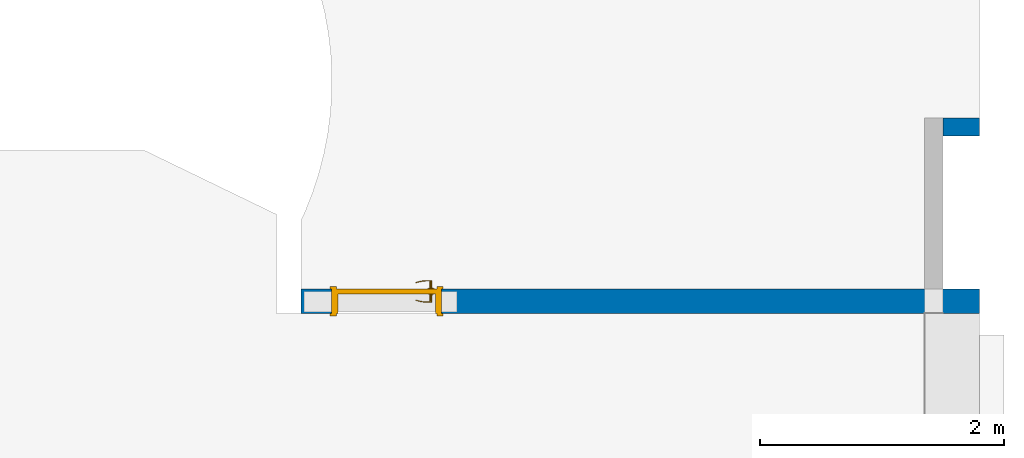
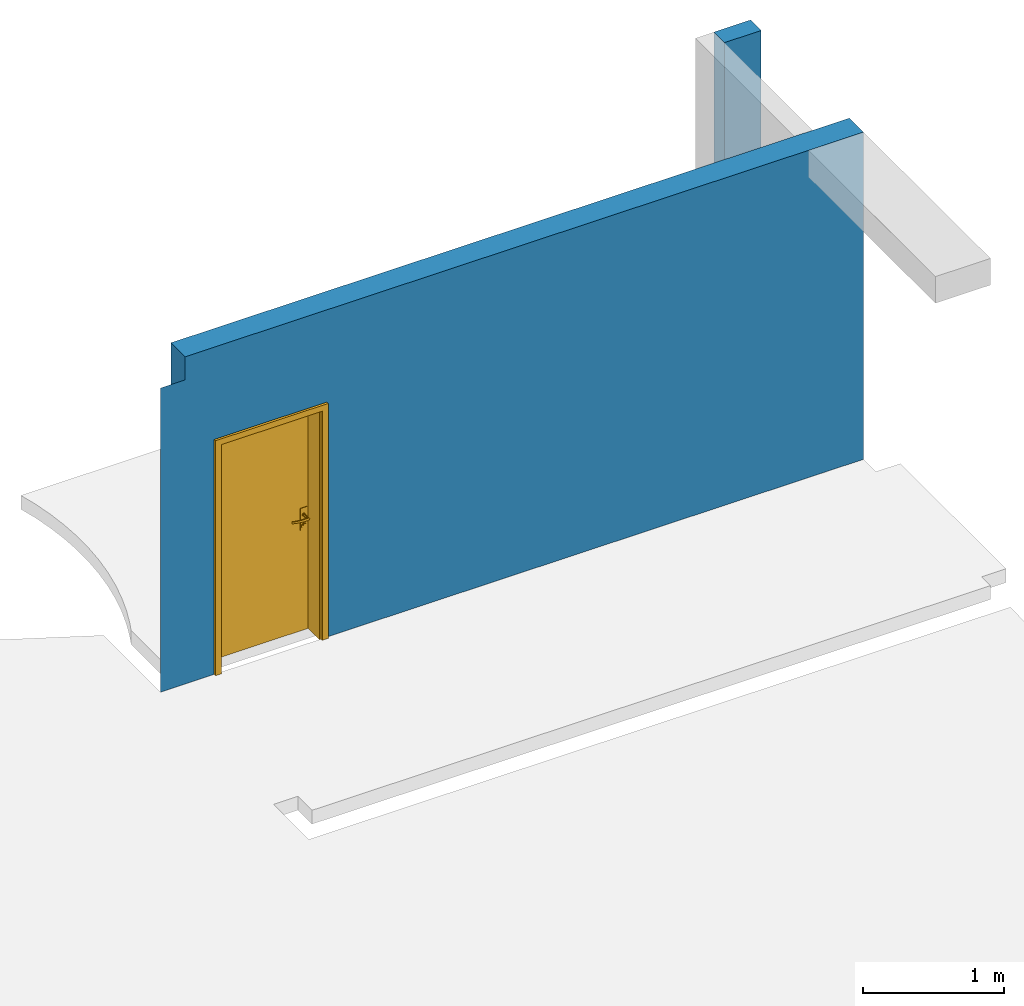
# One storey, part 8 of 9: 2 walls, 1 door, 1 opening.
"""IFC4 building model written with IfcOpenShell, lengths in millimetres."""

from ifc_helpers import new_model, entity, si_unit, converted_unit, derived_unit, direction, frame, origin_with_axes, place, context, subcontext, project, spatial, polygons, material, constituent, constituent_set, type_object, element, fill, save


model = new_model("IFC4")

# Units and contexts
model_context = context("Model", 3, precision=0.01, world=origin_with_axes(), true_north=direction((0.0, 1.0)))
body_context = subcontext(model_context, "Body", "Model", "MODEL_VIEW")
ifc_project = project(units=[si_unit("LENGTHUNIT", "METRE", prefix="MILLI"), si_unit("AREAUNIT", "SQUARE_METRE"), si_unit("VOLUMEUNIT", "CUBIC_METRE"), converted_unit("PLANEANGLEUNIT", "DEGREE", entity("IfcPlaneAngleMeasure", 0.0174532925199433), si_unit("PLANEANGLEUNIT", "RADIAN"), dimensions=[0, 0, 0, 0, 0, 0, 0]), converted_unit("TIMEUNIT", "Year", entity("IfcTimeMeasure", 31557600.0), si_unit("TIMEUNIT", "SECOND"), dimensions=[0, 0, 1, 0, 0, 0, 0]), si_unit("MASSUNIT", "GRAM", prefix="KILO"), si_unit("THERMODYNAMICTEMPERATUREUNIT", "DEGREE_CELSIUS"), si_unit("LUMINOUSINTENSITYUNIT", "LUMEN"), si_unit("ENERGYUNIT", "JOULE", prefix="MEGA"), derived_unit("THERMALCONDUCTANCEUNIT", [(si_unit("POWERUNIT", "WATT"), 1), (si_unit("LENGTHUNIT", "METRE"), -1), (si_unit("THERMODYNAMICTEMPERATUREUNIT", "KELVIN"), -1)]), derived_unit("SPECIFICHEATCAPACITYUNIT", [(si_unit("ENERGYUNIT", "JOULE"), 1), (si_unit("MASSUNIT", "GRAM", prefix="KILO"), -1), (si_unit("THERMODYNAMICTEMPERATUREUNIT", "KELVIN"), -1)]), derived_unit("MASSDENSITYUNIT", [(si_unit("MASSUNIT", "GRAM", prefix="KILO"), 1), (si_unit("VOLUMEUNIT", "CUBIC_METRE"), -1)])], contexts=[model_context])

# Site, building, storey
site_placement = place(None, origin_with_axes())
site = spatial("IfcSite", under=ifc_project, at=site_placement, Name="Exteriér", CompositionType="ELEMENT")
building_placement = place(site_placement, origin_with_axes())
building = spatial("IfcBuilding", under=site, at=building_placement, Name="Univerzitní lezecké centrum", CompositionType="ELEMENT")
storey_placement = place(building_placement, origin_with_axes())
storey = spatial("IfcBuildingStorey", under=building, at=storey_placement, Name="1.NP", CompositionType="ELEMENT", Elevation=0.0)

# Wall
ifc_material_1 = material(Name="Keramické tvárnice nenosné tl. 150 mm")
ifc_constituent_1 = constituent(ifc_material_1, Name="Keramické tvárnice nenosné tl. 150 mm")
ifc_constituent_set_1 = constituent_set(constituents=[ifc_constituent_1], Name="!Vnitřní keramická stěna 150 mm - nenosná s omítkou")
wall_type_1 = type_object("IfcWallType", Name="!Vnitřní keramická stěna 150 mm - nenosná s omítkou 150", PredefinedType="NOTDEFINED")
wall_1_placement = place(storey_placement, frame((10149.97505193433, 3400.480752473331, -120.000000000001), z_axis=(0.0, 0.0, 1.0), x_axis=(1.0, 0.0, 0.0)))
element("IfcWall", 1, at=wall_1_placement, inside=storey, type_object=wall_type_1, material=ifc_constituent_set_1, Name="St07", PredefinedType="NOTDEFINED", context=body_context, shape_type="Tessellation", body=[
    polygons([(299.8765969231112, -149.9999999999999, 0.0), (0.01014669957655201, -149.9999999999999, 0.0), (0.0, 0.0, 0.0), (299.8765969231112, 0.0, 0.0), (299.8765969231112, -149.9999999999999, 2950.000000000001), (0.01014669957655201, -149.9999999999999, 2950.000000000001), (0.0, 0.0, 2950.000000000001), (299.8765969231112, 0.0, 2950.000000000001)], [[[1, 2, 3, 4]], [[5, 6, 2, 1]], [[3, 2, 6, 7]], [[4, 3, 7, 8]], [[4, 8, 5, 1]], [[8, 7, 6, 5]]], closed=True),
])

# Wall, opening, door
ifc_material_2 = material(Name="Keramické tvárnice nenosné tl 200 mm")
ifc_constituent_2 = constituent(ifc_material_2, Name="Keramické tvárnice nenosné tl 200 mm")
ifc_constituent_set_2 = constituent_set(constituents=[ifc_constituent_2], Name="!Vnitřní keramická stěna 200 mm - nenosná")
wall_type_2 = type_object("IfcWallType", Name="!Vnitřní keramická stěna 200 mm - nenosná 200", PredefinedType="NOTDEFINED")
wall_2_placement = place(storey_placement, frame((10449.85164885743, 2000.480756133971, 0.0), z_axis=(0.0, 0.0, 1.0), x_axis=(-1.0, 0.0, 0.0)))
wall_2 = element("IfcWall", 2, at=wall_2_placement, inside=storey, type_object=wall_type_2, material=ifc_constituent_set_2, Name="St06", PredefinedType="NOTDEFINED", context=body_context, shape_type="Tessellation", body=[
    polygons([(5299.900487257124, -4.449773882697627e-10, 2020.0), (5299.900487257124, -6.772360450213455e-10, 0.0), (5549.833476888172, -7.140954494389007e-10, 0.0), (5549.833476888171, -7.140954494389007e-10, 2830.0), (0.0, 0.0, 2830.0), (0.0, 1.048050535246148e-10, 0.0), (4399.900487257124, -5.444533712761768e-10, 0.0), (4399.900487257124, -3.201883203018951e-10, 2020.0), (5299.900487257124, 199.9999999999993, 2020.0), (5299.900487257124, 199.9999999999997, 0.0), (5749.811491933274, 199.9999999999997, 0.0), (5549.8115090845, 199.9780297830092, 0.0), (5549.8115090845, 199.9780297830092, 2830.0), (5549.900487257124, 199.9780395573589, 2830.000000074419), (5549.900487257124, 199.9999999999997, 2830.000000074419), (0.0, 199.9999999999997, 2830.0), (0.0, 200.0000000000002, 0.0), (4399.900487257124, 199.9999999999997, 0.0), (4399.900487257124, 199.9999999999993, 2020.0), (5549.900487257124, 199.9999999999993, 2630.0), (5749.811491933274, 199.9999999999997, 2630.0), (5549.900487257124, 199.9780395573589, 2630.0)], [[[1, 2, 3, 4, 5, 6, 7, 8]], [[2, 1, 9, 10]], [[2, 10, 11, 12, 3]], [[13, 4, 3, 12]], [[5, 4, 13, 14, 15, 16]], [[5, 16, 17, 6]], [[18, 7, 6, 17]], [[8, 7, 18, 19]], [[1, 8, 19, 9]], [[19, 18, 17, 16, 15, 20, 21, 11, 10, 9]], [[13, 12, 11, 21, 22, 14]], [[14, 22, 20, 15]], [[22, 21, 20]]], closed=True),
])
opening_placement = place(wall_2_placement, frame((4849.900487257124, 0.0, 0.0), z_axis=(0.0, 0.0, 1.0), x_axis=(1.0, 0.0, 0.0)))
opening = element("IfcOpeningElement", 3, at=opening_placement, cuts=wall_2, Name="D11", context=body_context, identifier="Reference", shape_type="Tessellation", body=[
    polygons([(450.0000000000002, -1.000000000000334, 2020.0), (-450.0000000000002, -1.000000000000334, 2020.0), (-450.0000000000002, -1.000000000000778, 0.0), (450.0000000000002, -1.000000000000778, 0.0), (461.9999999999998, -1.000000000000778, 0.0), (461.9999999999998, -1.000000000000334, 2032.0), (-461.9999999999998, -1.000000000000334, 2032.0), (-461.9999999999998, -1.000000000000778, 0.0), (450.0000000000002, 0.0, 0.0), (-450.0000000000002, 0.0, 0.0), (-450.0000000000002, 199.9999999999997, 0.0), (-450.0000000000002, 201.0000000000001, 0.0), (450.0000000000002, 200.9999999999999, 0.0), (450.0000000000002, 199.9999999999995, 0.0), (461.9999999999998, 0.0, 0.0), (461.9999999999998, 0.0, 2032.0), (-461.9999999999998, 0.0, 2032.0), (-461.9999999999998, 0.0, 0.0), (-450.0000000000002, 0.0, 2020.0), (-450.0000000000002, 200.0000000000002, 2020.0), (-461.9999999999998, 199.9999999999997, 0.0), (-461.9999999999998, 201.0000000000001, 0.0), (-461.9999999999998, 201.0000000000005, 2032.0), (461.9999999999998, 201.0000000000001, 2032.0), (461.9999999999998, 200.9999999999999, 0.0), (461.9999999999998, 199.9999999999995, 0.0), (450.0000000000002, 0.0, 2020.0), (450.0000000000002, 199.9999999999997, 2020.0), (461.9999999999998, 199.9999999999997, 2032.0), (-461.9999999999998, 200.0000000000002, 2032.0)], [[[1, 2, 3, 4]], [[3, 2, 1, 4, 5, 6, 7, 8]], [[9, 4, 3, 10, 11, 12, 13, 14]], [[4, 9, 15, 5]], [[15, 16, 6, 5]], [[16, 17, 7, 6]], [[17, 18, 8, 7]], [[10, 3, 8, 18]], [[10, 19, 20, 11]], [[12, 11, 21, 22]], [[13, 12, 22, 23, 24, 25]], [[14, 13, 25, 26]], [[27, 9, 14, 28]], [[27, 19, 10, 18, 17, 16, 15, 9]], [[19, 27, 28, 20]], [[11, 20, 28, 14, 26, 29, 30, 21]], [[21, 30, 23, 22]], [[30, 29, 24, 23]], [[29, 26, 25, 24]]], closed=True),
])
door_type = type_object("IfcDoorType", Name="Dveře 24", OperationType="SINGLE_SWING_LEFT", PredefinedType="NOTDEFINED")
door_placement = place(opening_placement, frame((400.0000000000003, 0.0, 0.0), z_axis=(0.0, 0.0, 1.0), x_axis=(-1.0, 0.0, 0.0)))
door = element("IfcDoor", 4, at=door_placement, inside=storey, type_object=door_type, Name="D11", OverallHeight=2020.0, OverallWidth=900.0, PredefinedType="NOTDEFINED", context=body_context, shape_type="Tessellation", body=[
    polygons([(862.0000000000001, -218.9999999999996, 0.0), (812.0000000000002, -218.9999999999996, 0.0), (812.0000000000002, -199.9999999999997, 0.0), (862.0000000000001, -199.9999999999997, 0.0), (862.0000000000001, -219.0000000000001, 2032.0), (812.0000000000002, -219.0000000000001, 1982.0), (812.0000000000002, -199.9999999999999, 1982.0), (862.0000000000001, -199.9999999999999, 2032.0)], [[[1, 2, 3, 4]], [[1, 5, 6, 2]], [[2, 6, 7, 3]], [[4, 3, 7, 8]], [[5, 1, 4, 8]], [[6, 5, 8, 7]]], closed=True),
    polygons([(-61.99999999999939, -218.9999999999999, 2032.0), (-11.99999999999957, -218.9999999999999, 1982.0), (-11.99999999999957, -199.9999999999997, 1982.0), (-61.99999999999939, -199.9999999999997, 2032.0), (-61.99999999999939, -218.9999999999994, 0.0), (-11.99999999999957, -218.9999999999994, 0.0), (-11.99999999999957, -199.9999999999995, 0.0), (-61.99999999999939, -199.9999999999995, 0.0)], [[[1, 2, 3, 4]], [[1, 5, 6, 2]], [[2, 6, 7, 3]], [[4, 3, 7, 8]], [[5, 1, 4, 8]], [[6, 5, 8, 7]]], closed=True),
    polygons([(862.0000000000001, -219.0000000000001, 2032.0), (812.0000000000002, -219.0000000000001, 1982.0), (812.0000000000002, -199.9999999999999, 1982.0), (862.0000000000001, -199.9999999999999, 2032.0), (-61.99999999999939, -218.9999999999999, 2032.0), (-11.99999999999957, -218.9999999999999, 1982.0), (-11.99999999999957, -199.9999999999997, 1982.0), (-61.99999999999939, -199.9999999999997, 2032.0)], [[[1, 2, 3, 4]], [[1, 5, 6, 2]], [[2, 6, 7, 3]], [[4, 3, 7, 8]], [[5, 1, 4, 8]], [[6, 5, 8, 7]]], closed=True),
    polygons([(862.0000000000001, 19.00000000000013, 0.0), (862.0000000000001, 0.0, 0.0), (812.0000000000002, 0.0, 0.0), (812.0000000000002, 19.00000000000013, 0.0), (862.0000000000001, 19.00000000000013, 2032.0), (862.0000000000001, 0.0, 2032.0), (812.0000000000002, 0.0, 1982.0), (812.0000000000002, 19.00000000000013, 1982.0)], [[[1, 2, 3, 4]], [[5, 6, 2, 1]], [[2, 6, 7, 3]], [[4, 3, 7, 8]], [[1, 4, 8, 5]], [[8, 7, 6, 5]]], closed=True),
    polygons([(-61.99999999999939, 19.00000000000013, 2032.0), (-61.99999999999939, 0.0, 2032.0), (-11.99999999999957, 0.0, 1982.0), (-11.99999999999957, 19.00000000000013, 1982.0), (-61.99999999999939, 19.00000000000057, 0.0), (-61.99999999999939, 0.0, 0.0), (-11.99999999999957, 0.0, 0.0), (-11.99999999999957, 19.00000000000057, 0.0)], [[[1, 2, 3, 4]], [[5, 6, 2, 1]], [[2, 6, 7, 3]], [[4, 3, 7, 8]], [[1, 4, 8, 5]], [[8, 7, 6, 5]]], closed=True),
    polygons([(862.0000000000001, 19.00000000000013, 2032.0), (862.0000000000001, 0.0, 2032.0), (812.0000000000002, 0.0, 1982.0), (812.0000000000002, 19.00000000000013, 1982.0), (-61.99999999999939, 19.00000000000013, 2032.0), (-61.99999999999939, 0.0, 2032.0), (-11.99999999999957, 0.0, 1982.0), (-11.99999999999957, 19.00000000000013, 1982.0)], [[[1, 2, 3, 4]], [[5, 6, 2, 1]], [[2, 6, 7, 3]], [[4, 3, 7, 8]], [[1, 4, 8, 5]], [[8, 7, 6, 5]]], closed=True),
    polygons([(800.0000000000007, -39.99999999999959, 0.0), (800.0000000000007, -199.9999999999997, 0.0), (800.0000000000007, -199.9999999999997, 1970.0), (800.0000000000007, -39.99999999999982, 1970.0), (812.0000000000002, -39.99999999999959, 0.0), (812.0000000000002, 0.0, 0.0), (850.0000000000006, 0.0, 0.0), (850.0000000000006, -199.9999999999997, 0.0), (850.0000000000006, -199.9999999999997, 1970.0), (812.0000000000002, -39.99999999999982, 1970.0), (850.0000000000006, 0.0, 1970.0), (812.0000000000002, 0.0, 1970.0)], [[[1, 2, 3, 4]], [[5, 6, 7, 8, 2, 1]], [[2, 8, 9, 3]], [[10, 4, 3, 9, 11, 12]], [[10, 5, 1, 4]], [[12, 6, 5, 10]], [[12, 11, 7, 6]], [[7, 11, 9, 8]]], closed=True),
    polygons([(-11.99999999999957, -39.99999999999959, 1970.0), (-11.99999999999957, 0.0, 1970.0), (-49.99999999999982, 0.0, 1970.0), (-49.99999999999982, -199.9999999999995, 1970.0), (0.0, -199.9999999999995, 1970.0), (0.0, -39.99999999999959, 1970.0), (-11.99999999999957, -39.99999999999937, 0.0), (-11.99999999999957, 0.0, 0.0), (-49.99999999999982, 0.0, 0.0), (-49.99999999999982, -199.9999999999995, 0.0), (0.0, -199.9999999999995, 0.0), (0.0, -39.99999999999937, 0.0)], [[[1, 2, 3, 4, 5, 6]], [[1, 7, 8, 2]], [[8, 9, 3, 2]], [[3, 9, 10, 4]], [[4, 10, 11, 5]], [[6, 5, 11, 12]], [[6, 12, 7, 1]], [[7, 12, 11, 10, 9, 8]]], closed=True),
    polygons([(812.0000000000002, 0.0, 1982.0), (-11.99999999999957, 0.0, 1982.0), (-11.99999999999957, 0.0, 1970.0), (-49.99999999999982, 0.0, 1970.0), (-49.99999999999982, 0.0, 2020.0), (850.0000000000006, 0.0, 2020.0), (850.0000000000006, 0.0, 1970.0), (812.0000000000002, 0.0, 1970.0), (812.0000000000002, -39.99999999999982, 1982.0), (-11.99999999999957, -39.99999999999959, 1982.0), (-11.99999999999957, -39.99999999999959, 1970.0), (0.0, -39.99999999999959, 1970.0), (0.0, -199.9999999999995, 1970.0), (-49.99999999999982, -199.9999999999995, 1970.0), (-49.99999999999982, -199.9999999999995, 2020.0), (850.0000000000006, -199.9999999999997, 2020.0), (850.0000000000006, -199.9999999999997, 1970.0), (812.0000000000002, -39.99999999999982, 1970.0), (800.0000000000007, -199.9999999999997, 1970.0), (800.0000000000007, -39.99999999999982, 1970.0)], [[[1, 2, 3, 4, 5, 6, 7, 8]], [[1, 9, 10, 2]], [[2, 10, 11, 3]], [[11, 12, 13, 14, 4, 3]], [[5, 4, 14, 15]], [[6, 5, 15, 16]], [[7, 6, 16, 17]], [[18, 8, 7, 17, 19, 20]], [[8, 18, 9, 1]], [[11, 10, 9, 18, 20, 12]], [[20, 19, 13, 12]], [[13, 19, 17, 16, 15, 14]]], closed=True),
    polygons([(790.5000000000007, -39.99999999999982, 1060.0), (733.5000000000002, -39.99999999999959, 1060.0), (733.5000000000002, -42.9999999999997, 1060.0), (790.5000000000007, -42.9999999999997, 1060.0), (790.5000000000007, -39.99999999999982, 870.0), (733.5000000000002, -39.99999999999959, 870.0), (733.5000000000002, -42.9999999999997, 870.0), (790.5000000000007, -42.9999999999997, 870.0)], [[[1, 2, 3, 4]], [[1, 5, 6, 2]], [[2, 6, 7, 3]], [[4, 3, 7, 8]], [[5, 1, 4, 8]], [[6, 5, 8, 7]]], closed=True),
    polygons([(762.0000000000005, -103.9999999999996, 990.0), (767.0000000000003, -103.9999999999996, 991.3397459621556), (767.0000000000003, -110.9999999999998, 991.3397459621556), (762.0000000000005, -110.9999999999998, 990.0), (737.0000000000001, -103.9999999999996, 990.0), (737.0000000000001, -103.9999999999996, 1010.0), (762.0000000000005, -103.9999999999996, 1010.0), (767.0000000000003, -103.9999999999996, 1008.660254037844), (770.6602540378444, -103.9999999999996, 1005.0), (772.0000000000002, -103.9999999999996, 1000.0), (770.6602540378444, -103.9999999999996, 995.0), (770.6602540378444, -110.9999999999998, 995.0), (772.0000000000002, -110.9999999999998, 1000.0), (770.6602540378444, -110.9999999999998, 1005.0), (767.0000000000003, -110.9999999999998, 1008.660254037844), (762.0000000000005, -110.9999999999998, 1010.0), (737.0000000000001, -110.9999999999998, 1010.0), (737.0000000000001, -110.9999999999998, 990.0)], [[[1, 2, 3, 4]], [[1, 5, 6, 7, 8, 9, 10, 11, 2]], [[2, 11, 12, 3]], [[4, 3, 12, 13, 14, 15, 16, 17, 18]], [[5, 1, 4, 18]], [[6, 5, 18, 17]], [[7, 6, 17, 16]], [[8, 7, 16, 15]], [[9, 8, 15, 14]], [[10, 9, 14, 13]], [[11, 10, 13, 12]]], closed=True),
    polygons([(737.0000000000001, -103.9999999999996, 1010.0), (723.9017171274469, -103.9999999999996, 1009.607300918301), (723.5960905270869, -110.9999999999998, 1009.607300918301), (737.0000000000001, -103.9999999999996, 990.0), (723.9017171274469, -103.9999999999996, 990.3926990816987), (696.8902834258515, -108.6635446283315, 1008.821902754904), (737.0000000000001, -110.9999999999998, 1010.0), (737.0000000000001, -110.9999999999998, 990.0), (697.8048372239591, -101.716818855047, 991.1780972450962), (697.8048372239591, -101.716818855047, 1008.821902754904), (696.8902834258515, -108.6635446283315, 991.1780972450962), (723.5960905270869, -110.9999999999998, 990.3926990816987), (672.0062561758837, -97.16783295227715, 991.9634954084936), (672.0062561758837, -97.16783295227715, 1008.036504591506), (670.4897354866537, -104.0084157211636, 1008.036504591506), (670.4897354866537, -104.0084157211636, 991.9634954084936), (646.7023167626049, -90.38766282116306, 992.7488935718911), (646.7023167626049, -90.38766282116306, 1007.251106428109), (644.5953708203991, -97.07004162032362, 1007.251106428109), (644.5953708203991, -97.07004162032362, 992.7488935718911), (638.829442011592, -87.52217075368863, 993.0), (638.829442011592, -87.52217075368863, 1007.0), (636.5387956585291, -94.13768807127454, 1007.0), (636.5387956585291, -94.13768807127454, 993.0)], [[[1, 2, 3]], [[1, 4, 5, 2]], [[2, 6, 3]], [[1, 3, 7]], [[5, 4, 8]], [[2, 5, 9, 10]], [[2, 10, 6]], [[3, 6, 11, 12]], [[7, 3, 12, 8]], [[5, 8, 12]], [[9, 5, 12]], [[10, 9, 13, 14]], [[10, 15, 6]], [[6, 15, 16, 11]], [[9, 12, 11]], [[13, 9, 11]], [[14, 13, 17, 18]], [[10, 14, 15]], [[15, 19, 20, 16]], [[13, 11, 16]], [[17, 13, 16]], [[18, 17, 21, 22]], [[14, 18, 19]], [[14, 19, 15]], [[19, 23, 24, 20]], [[17, 16, 20]], [[21, 17, 20]], [[22, 21, 24, 23]], [[18, 22, 23]], [[18, 23, 19]], [[21, 20, 24]]], closed=False),
    polygons([(751.6076951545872, -52.99999999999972, 994.0), (750.0, -52.99999999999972, 1000.0), (749.0000000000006, -42.9999999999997, 1000.0), (750.7416697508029, -42.9999999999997, 993.5), (756.0000000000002, -52.99999999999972, 989.6076951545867), (762.0000000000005, -52.99999999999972, 988.0), (768.0000000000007, -52.99999999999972, 989.6076951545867), (772.3923048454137, -52.99999999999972, 994.0), (774.0, -52.99999999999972, 1000.0), (772.3923048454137, -52.99999999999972, 1006.0), (768.0000000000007, -52.99999999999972, 1010.392304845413), (762.0000000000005, -52.99999999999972, 1012.0), (756.0000000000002, -52.99999999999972, 1010.392304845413), (751.6076951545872, -52.99999999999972, 1006.0), (750.7416697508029, -42.9999999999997, 1006.5), (755.5000000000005, -42.9999999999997, 1011.258330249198), (762.0000000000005, -42.9999999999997, 1013.0), (768.5000000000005, -42.9999999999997, 1011.258330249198), (773.258330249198, -42.9999999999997, 1006.5), (775.0000000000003, -42.9999999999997, 1000.0), (773.258330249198, -42.9999999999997, 993.4999999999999), (768.5000000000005, -42.9999999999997, 988.7416697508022), (762.0000000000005, -42.9999999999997, 987.0), (755.5000000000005, -42.9999999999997, 988.7416697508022)], [[[1, 2, 3, 4]], [[2, 1, 5, 6, 7, 8, 9, 10, 11, 12, 13, 14]], [[2, 14, 15, 3]], [[3, 15, 16, 17, 18, 19, 20, 21, 22, 23, 24, 4]], [[5, 1, 4, 24]], [[6, 5, 24, 23]], [[7, 6, 23, 22]], [[8, 7, 22, 21]], [[9, 8, 21, 20]], [[10, 9, 20, 19]], [[11, 10, 19, 18]], [[12, 11, 18, 17]], [[13, 12, 17, 16]], [[14, 13, 16, 15]]], closed=True),
    polygons([(744.6794919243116, -46.99999999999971, 895.0), (742.0, -46.99999999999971, 905.0), (740.0000000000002, -42.9999999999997, 905.0), (742.9474411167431, -42.9999999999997, 894.0), (752.0000000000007, -46.99999999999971, 887.6794919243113), (762.0000000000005, -46.99999999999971, 885.0), (772.0000000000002, -46.99999999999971, 887.6794919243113), (779.3205080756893, -46.99999999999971, 895.0), (782.0, -46.99999999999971, 905.0), (779.3205080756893, -46.99999999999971, 915.0), (772.0000000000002, -46.99999999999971, 922.3205080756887), (762.0000000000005, -46.99999999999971, 925.0), (752.0000000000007, -46.99999999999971, 922.3205080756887), (744.6794919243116, -46.99999999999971, 915.0), (742.9474411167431, -42.9999999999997, 916.0), (751.0000000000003, -42.9999999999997, 924.0525588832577), (762.0000000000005, -42.9999999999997, 927.0), (773.0000000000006, -42.9999999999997, 924.0525588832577), (781.0525588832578, -42.9999999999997, 916.0), (784.0000000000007, -42.9999999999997, 905.0), (781.0525588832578, -42.9999999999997, 894.0), (773.0000000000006, -42.9999999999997, 885.9474411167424), (762.0000000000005, -42.9999999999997, 883.0), (751.0000000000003, -42.9999999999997, 885.9474411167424)], [[[1, 2, 3, 4]], [[2, 1, 5, 6, 7, 8, 9, 10, 11, 12, 13, 14]], [[2, 14, 15, 3]], [[3, 15, 16, 17, 18, 19, 20, 21, 22, 23, 24, 4]], [[5, 1, 4, 24]], [[6, 5, 24, 23]], [[7, 6, 23, 22]], [[8, 7, 22, 21]], [[9, 8, 21, 20]], [[10, 9, 20, 19]], [[11, 10, 19, 18]], [[12, 11, 18, 17]], [[13, 12, 17, 16]], [[14, 13, 16, 15]]], closed=True),
    polygons([(757.0502525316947, -48.99999999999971, 909.0502525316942), (755.0000000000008, -48.99999999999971, 914.0), (754.0000000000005, -46.99999999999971, 914.0), (756.3431457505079, -46.99999999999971, 908.3431457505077), (762.0000000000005, -48.99999999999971, 907.0), (766.9497474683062, -48.99999999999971, 909.0502525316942), (769.0000000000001, -48.99999999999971, 914.0), (766.9497474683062, -48.99999999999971, 918.9497474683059), (762.0000000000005, -48.99999999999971, 921.0), (757.0502525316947, -48.99999999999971, 918.9497474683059), (756.3431457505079, -46.99999999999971, 919.6568542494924), (762.0000000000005, -46.99999999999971, 922.0), (767.656854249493, -46.99999999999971, 919.6568542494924), (770.0000000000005, -46.99999999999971, 914.0), (767.656854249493, -46.99999999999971, 908.3431457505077), (762.0000000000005, -46.99999999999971, 906.0)], [[[1, 2, 3, 4]], [[2, 1, 5, 6, 7, 8, 9, 10]], [[2, 10, 11, 3]], [[3, 11, 12, 13, 14, 15, 16, 4]], [[5, 1, 4, 16]], [[6, 5, 16, 15]], [[7, 6, 15, 14]], [[8, 7, 14, 13]], [[9, 8, 13, 12]], [[10, 9, 12, 11]]], closed=True),
    polygons([(762.0000000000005, -52.99999999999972, 1010.0), (757.0000000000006, -52.99999999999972, 1008.660254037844), (757.0000000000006, -103.9999999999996, 1008.660254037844), (762.0000000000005, -103.9999999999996, 1010.0), (767.0000000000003, -52.99999999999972, 1008.660254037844), (770.6602540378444, -52.99999999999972, 1005.0), (772.0000000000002, -52.99999999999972, 1000.0), (770.6602540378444, -52.99999999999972, 995.0), (767.0000000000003, -52.99999999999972, 991.3397459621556), (762.0000000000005, -52.99999999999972, 990.0), (757.0000000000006, -52.99999999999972, 991.3397459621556), (753.3397459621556, -52.99999999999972, 995.0), (752.0000000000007, -52.99999999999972, 1000.0), (753.3397459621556, -52.99999999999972, 1005.0), (753.3397459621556, -103.9999999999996, 1005.0), (752.0000000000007, -103.9999999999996, 1000.0), (753.3397459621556, -103.9999999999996, 995.0), (757.0000000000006, -103.9999999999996, 991.3397459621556), (762.0000000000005, -103.9999999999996, 990.0), (767.0000000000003, -103.9999999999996, 991.3397459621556), (770.6602540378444, -103.9999999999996, 995.0), (772.0000000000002, -103.9999999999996, 1000.0), (770.6602540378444, -103.9999999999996, 1005.0), (767.0000000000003, -103.9999999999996, 1008.660254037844)], [[[1, 2, 3, 4]], [[1, 5, 6, 7, 8, 9, 10, 11, 12, 13, 14, 2]], [[2, 14, 15, 3]], [[4, 3, 15, 16, 17, 18, 19, 20, 21, 22, 23, 24]], [[5, 1, 4, 24]], [[6, 5, 24, 23]], [[7, 6, 23, 22]], [[8, 7, 22, 21]], [[9, 8, 21, 20]], [[10, 9, 20, 19]], [[11, 10, 19, 18]], [[12, 11, 18, 17]], [[13, 12, 17, 16]], [[14, 13, 16, 15]]], closed=True),
    polygons([(790.5000000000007, 0.0, 1060.0), (790.5000000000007, 3.000000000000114, 1060.0), (733.5000000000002, 3.000000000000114, 1060.0), (733.5000000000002, 0.0, 1060.0), (790.5000000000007, 0.0, 870.0), (790.5000000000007, 3.000000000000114, 870.0), (733.5000000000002, 3.000000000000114, 870.0), (733.5000000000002, 0.0, 870.0)], [[[1, 2, 3, 4]], [[5, 6, 2, 1]], [[2, 6, 7, 3]], [[4, 3, 7, 8]], [[1, 4, 8, 5]], [[8, 7, 6, 5]]], closed=True),
    polygons([(762.0000000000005, 64.0000000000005, 990.0), (762.0000000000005, 71.00000000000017, 990.0), (767.0000000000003, 71.00000000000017, 991.3397459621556), (767.0000000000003, 64.0000000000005, 991.3397459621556), (737.0000000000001, 64.0000000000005, 990.0), (737.0000000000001, 71.00000000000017, 990.0), (737.0000000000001, 71.00000000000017, 1010.0), (762.0000000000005, 71.00000000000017, 1010.0), (767.0000000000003, 71.00000000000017, 1008.660254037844), (770.6602540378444, 71.00000000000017, 1005.0), (772.0000000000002, 71.00000000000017, 1000.0), (770.6602540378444, 71.00000000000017, 995.0), (770.6602540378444, 64.0000000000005, 995.0), (772.0000000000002, 64.0000000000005, 1000.0), (770.6602540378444, 64.0000000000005, 1005.0), (767.0000000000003, 64.0000000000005, 1008.660254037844), (762.0000000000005, 64.0000000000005, 1010.0), (737.0000000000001, 64.0000000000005, 1010.0)], [[[1, 2, 3, 4]], [[5, 6, 2, 1]], [[2, 6, 7, 8, 9, 10, 11, 12, 3]], [[4, 3, 12, 13]], [[1, 4, 13, 14, 15, 16, 17, 18, 5]], [[18, 7, 6, 5]], [[17, 8, 7, 18]], [[16, 9, 8, 17]], [[15, 10, 9, 16]], [[14, 11, 10, 15]], [[13, 12, 11, 14]]], closed=True),
    polygons([(737.0000000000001, 64.0000000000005, 1010.0), (723.5960905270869, 71.00000000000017, 1009.607300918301), (723.9017171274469, 64.0000000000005, 1009.607300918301), (737.0000000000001, 71.00000000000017, 1010.0), (696.8902834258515, 68.66354462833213, 1008.821902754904), (723.9017171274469, 64.0000000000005, 990.3926990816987), (737.0000000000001, 64.0000000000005, 990.0), (737.0000000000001, 71.00000000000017, 990.0), (723.5960905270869, 71.00000000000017, 990.3926990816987), (696.8902834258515, 68.66354462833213, 991.1780972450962), (697.8048372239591, 61.71681885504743, 1008.821902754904), (697.8048372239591, 61.71681885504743, 991.1780972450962), (670.4897354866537, 64.00841572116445, 991.9634954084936), (670.4897354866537, 64.00841572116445, 1008.036504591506), (672.0062561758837, 57.167832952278, 1008.036504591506), (672.0062561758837, 57.167832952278, 991.9634954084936), (644.5953708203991, 57.07004162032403, 992.7488935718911), (644.5953708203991, 57.07004162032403, 1007.251106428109), (646.7023167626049, 50.38766282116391, 1007.251106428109), (646.7023167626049, 50.38766282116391, 992.7488935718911), (636.5387956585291, 54.13768807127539, 993.0), (636.5387956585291, 54.13768807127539, 1007.0), (638.829442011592, 47.52217075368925, 1007.0), (638.829442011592, 47.52217075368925, 993.0)], [[[1, 2, 3]], [[1, 4, 2]], [[3, 2, 5]], [[1, 3, 6, 7]], [[4, 8, 9, 2]], [[2, 9, 10, 5]], [[3, 5, 11]], [[3, 11, 12, 6]], [[6, 8, 7]], [[6, 9, 8]], [[12, 10, 9]], [[5, 10, 13, 14]], [[11, 5, 14]], [[11, 15, 16, 12]], [[12, 9, 6]], [[16, 10, 12]], [[16, 13, 10]], [[14, 13, 17, 18]], [[11, 14, 15]], [[15, 19, 20, 16]], [[20, 13, 16]], [[20, 17, 13]], [[18, 17, 21, 22]], [[15, 14, 18]], [[15, 18, 19]], [[19, 23, 24, 20]], [[24, 17, 20]], [[24, 21, 17]], [[23, 22, 21, 24]], [[19, 18, 22]], [[19, 22, 23]]], closed=False),
    polygons([(751.6076951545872, 13.00000000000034, 994.0), (750.7416697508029, 3.000000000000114, 993.5), (749.0000000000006, 3.000000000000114, 1000.0), (750.0, 13.00000000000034, 1000.0), (756.0000000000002, 13.00000000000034, 989.6076951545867), (755.5000000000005, 3.000000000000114, 988.7416697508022), (762.0000000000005, 3.000000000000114, 987.0), (768.5000000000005, 3.000000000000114, 988.7416697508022), (773.258330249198, 3.000000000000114, 993.4999999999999), (775.0000000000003, 3.000000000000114, 1000.0), (773.258330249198, 3.000000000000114, 1006.5), (768.5000000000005, 3.000000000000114, 1011.258330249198), (762.0000000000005, 3.000000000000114, 1013.0), (755.5000000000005, 3.000000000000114, 1011.258330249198), (750.7416697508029, 3.000000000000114, 1006.5), (751.6076951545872, 13.00000000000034, 1006.0), (756.0000000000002, 13.00000000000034, 1010.392304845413), (762.0000000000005, 13.00000000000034, 1012.0), (768.0000000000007, 13.00000000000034, 1010.392304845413), (772.3923048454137, 13.00000000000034, 1006.0), (774.0, 13.00000000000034, 1000.0), (772.3923048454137, 13.00000000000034, 994.0), (768.0000000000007, 13.00000000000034, 989.6076951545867), (762.0000000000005, 13.00000000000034, 988.0)], [[[1, 2, 3, 4]], [[5, 6, 2, 1]], [[3, 2, 6, 7, 8, 9, 10, 11, 12, 13, 14, 15]], [[4, 3, 15, 16]], [[4, 16, 17, 18, 19, 20, 21, 22, 23, 24, 5, 1]], [[24, 7, 6, 5]], [[23, 8, 7, 24]], [[22, 9, 8, 23]], [[21, 10, 9, 22]], [[20, 11, 10, 21]], [[19, 12, 11, 20]], [[18, 13, 12, 19]], [[17, 14, 13, 18]], [[16, 15, 14, 17]]], closed=True),
    polygons([(744.6794919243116, 7.000000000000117, 895.0), (742.9474411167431, 3.000000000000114, 894.0), (740.0000000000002, 3.000000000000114, 905.0), (742.0, 7.000000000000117, 905.0), (752.0000000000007, 7.000000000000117, 887.6794919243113), (751.0000000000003, 3.000000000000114, 885.9474411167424), (762.0000000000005, 3.000000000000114, 883.0), (773.0000000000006, 3.000000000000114, 885.9474411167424), (781.0525588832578, 3.000000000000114, 894.0), (784.0000000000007, 3.000000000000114, 905.0), (781.0525588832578, 3.000000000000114, 916.0), (773.0000000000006, 3.000000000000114, 924.0525588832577), (762.0000000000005, 3.000000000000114, 927.0), (751.0000000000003, 3.000000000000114, 924.0525588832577), (742.9474411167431, 3.000000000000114, 916.0), (744.6794919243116, 7.000000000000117, 915.0), (752.0000000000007, 7.000000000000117, 922.3205080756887), (762.0000000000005, 7.000000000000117, 925.0), (772.0000000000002, 7.000000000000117, 922.3205080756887), (779.3205080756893, 7.000000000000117, 915.0), (782.0, 7.000000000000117, 905.0), (779.3205080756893, 7.000000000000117, 895.0), (772.0000000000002, 7.000000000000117, 887.6794919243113), (762.0000000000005, 7.000000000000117, 885.0)], [[[1, 2, 3, 4]], [[5, 6, 2, 1]], [[3, 2, 6, 7, 8, 9, 10, 11, 12, 13, 14, 15]], [[4, 3, 15, 16]], [[4, 16, 17, 18, 19, 20, 21, 22, 23, 24, 5, 1]], [[24, 7, 6, 5]], [[23, 8, 7, 24]], [[22, 9, 8, 23]], [[21, 10, 9, 22]], [[20, 11, 10, 21]], [[19, 12, 11, 20]], [[18, 13, 12, 19]], [[17, 14, 13, 18]], [[16, 15, 14, 17]]], closed=True),
    polygons([(757.0502525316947, 9.000000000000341, 909.0502525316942), (756.3431457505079, 7.000000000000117, 908.3431457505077), (754.0000000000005, 7.000000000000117, 914.0), (755.0000000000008, 9.000000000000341, 914.0), (762.0000000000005, 9.000000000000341, 907.0), (762.0000000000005, 7.000000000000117, 906.0), (767.656854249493, 7.000000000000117, 908.3431457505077), (770.0000000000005, 7.000000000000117, 914.0), (767.656854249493, 7.000000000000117, 919.6568542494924), (762.0000000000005, 7.000000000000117, 922.0), (756.3431457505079, 7.000000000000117, 919.6568542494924), (757.0502525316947, 9.000000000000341, 918.9497474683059), (762.0000000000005, 9.000000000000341, 921.0), (766.9497474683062, 9.000000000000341, 918.9497474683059), (769.0000000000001, 9.000000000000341, 914.0), (766.9497474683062, 9.000000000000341, 909.0502525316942)], [[[1, 2, 3, 4]], [[5, 6, 2, 1]], [[3, 2, 6, 7, 8, 9, 10, 11]], [[4, 3, 11, 12]], [[4, 12, 13, 14, 15, 16, 5, 1]], [[16, 7, 6, 5]], [[15, 8, 7, 16]], [[14, 9, 8, 15]], [[13, 10, 9, 14]], [[12, 11, 10, 13]]], closed=True),
    polygons([(762.0000000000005, 13.00000000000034, 1010.0), (762.0000000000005, 64.0000000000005, 1010.0), (757.0000000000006, 64.0000000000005, 1008.660254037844), (757.0000000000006, 13.00000000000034, 1008.660254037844), (767.0000000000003, 13.00000000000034, 1008.660254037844), (767.0000000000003, 64.0000000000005, 1008.660254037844), (770.6602540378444, 64.0000000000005, 1005.0), (772.0000000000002, 64.0000000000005, 1000.0), (770.6602540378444, 64.0000000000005, 995.0), (767.0000000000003, 64.0000000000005, 991.3397459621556), (762.0000000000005, 64.0000000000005, 990.0), (757.0000000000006, 64.0000000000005, 991.3397459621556), (753.3397459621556, 64.0000000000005, 995.0), (752.0000000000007, 64.0000000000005, 1000.0), (753.3397459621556, 64.0000000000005, 1005.0), (753.3397459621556, 13.00000000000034, 1005.0), (752.0000000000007, 13.00000000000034, 1000.0), (753.3397459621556, 13.00000000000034, 995.0), (757.0000000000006, 13.00000000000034, 991.3397459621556), (762.0000000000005, 13.00000000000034, 990.0), (767.0000000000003, 13.00000000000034, 991.3397459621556), (770.6602540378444, 13.00000000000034, 995.0), (772.0000000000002, 13.00000000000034, 1000.0), (770.6602540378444, 13.00000000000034, 1005.0)], [[[1, 2, 3, 4]], [[5, 6, 2, 1]], [[2, 6, 7, 8, 9, 10, 11, 12, 13, 14, 15, 3]], [[4, 3, 15, 16]], [[1, 4, 16, 17, 18, 19, 20, 21, 22, 23, 24, 5]], [[24, 7, 6, 5]], [[23, 8, 7, 24]], [[22, 9, 8, 23]], [[21, 10, 9, 22]], [[20, 11, 10, 21]], [[19, 12, 11, 20]], [[18, 13, 12, 19]], [[17, 14, 13, 18]], [[16, 15, 14, 17]]], closed=True),
    polygons([(-11.99999999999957, 0.0, 0.0), (812.0000000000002, 0.0, 0.0), (812.0000000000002, -39.99999999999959, 0.0), (-11.99999999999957, -39.99999999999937, 0.0), (-11.99999999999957, 0.0, 1982.0), (812.0000000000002, 0.0, 1982.0), (812.0000000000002, -39.99999999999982, 1982.0), (-11.99999999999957, -39.99999999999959, 1982.0)], [[[1, 2, 3, 4]], [[1, 5, 6, 2]], [[2, 6, 7, 3]], [[4, 3, 7, 8]], [[5, 1, 4, 8]], [[6, 5, 8, 7]]], closed=True),
])
fill(opening, door)

save(model, "model.ifc")
